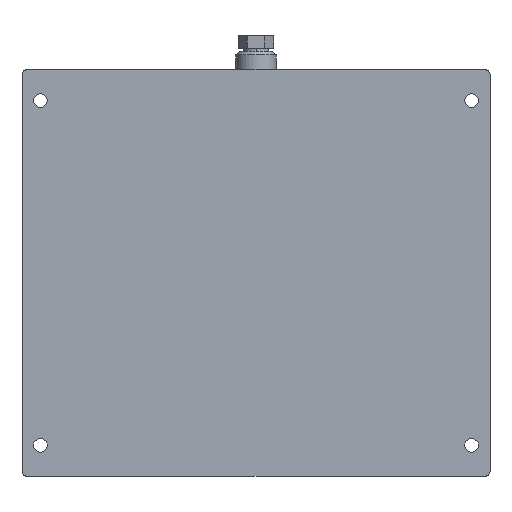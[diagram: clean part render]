
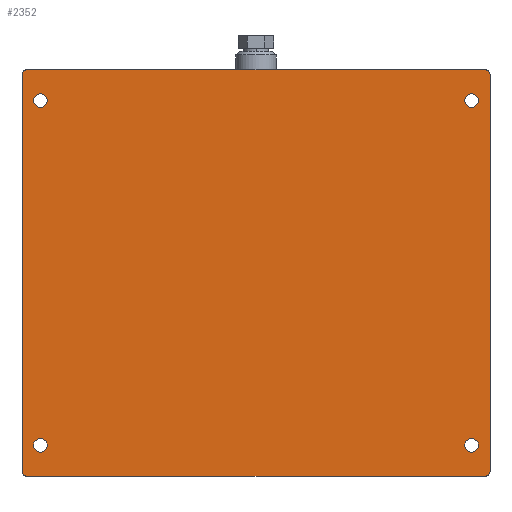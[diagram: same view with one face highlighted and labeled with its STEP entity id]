
A CAD part, front view. The second image highlights one B-rep face of the part: STEP entity #2352.
In plain terms, the highlighted planar face has unit normal (0, -1, 0).
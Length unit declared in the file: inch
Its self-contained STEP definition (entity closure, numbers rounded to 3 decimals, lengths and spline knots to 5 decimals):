
#18 = ORIENTED_EDGE ( 'NONE', *, *, #1941, .T. ) ;
#61 = CIRCLE ( 'NONE', #2978, 0.28125 ) ;
#80 = DIRECTION ( 'NONE',  ( 0., 1., 0. ) ) ;
#84 = DIRECTION ( 'NONE',  ( 0., 1., 0. ) ) ;
#87 = FACE_BOUND ( 'NONE', #379, .T. ) ;
#148 = DIRECTION ( 'NONE',  ( 0., 1., 0. ) ) ;
#213 = DIRECTION ( 'NONE',  ( 0., 0., 1. ) ) ;
#239 = ORIENTED_EDGE ( 'NONE', *, *, #2556, .F. ) ;
#241 = EDGE_CURVE ( 'NONE', #853, #1714, #1551, .T. ) ;
#271 = EDGE_CURVE ( 'NONE', #2634, #2176, #286, .T. ) ;
#286 = CIRCLE ( 'NONE', #1497, 0.28125 ) ;
#356 = DIRECTION ( 'NONE',  ( 0., 1., 0. ) ) ;
#357 = CIRCLE ( 'NONE', #1370, 0.28125 ) ;
#379 = EDGE_LOOP ( 'NONE', ( #1055, #1553 ) ) ;
#382 = VECTOR ( 'NONE', #1365, 39.37008 ) ;
#391 = EDGE_LOOP ( 'NONE', ( #2938, #2139 ) ) ;
#397 = CARTESIAN_POINT ( 'NONE',  ( -9.3125, -0.1875, -8.25 ) ) ;
#427 = EDGE_CURVE ( 'NONE', #2176, #2634, #892, .T. ) ;
#498 = CIRCLE ( 'NONE', #2849, 0.28125 ) ;
#528 = CARTESIAN_POINT ( 'NONE',  ( -8.75, -0.1875, -6.71875 ) ) ;
#530 = DIRECTION ( 'NONE',  ( 0., 1., 0. ) ) ;
#539 = CIRCLE ( 'NONE', #2172, 0.1875 ) ;
#556 = CARTESIAN_POINT ( 'NONE',  ( 9.5, -0.1875, 8.0625 ) ) ;
#563 = DIRECTION ( 'NONE',  ( 0., 0., 1. ) ) ;
#584 = DIRECTION ( 'NONE',  ( 0., 1., 0. ) ) ;
#595 = AXIS2_PLACEMENT_3D ( 'NONE', #1506, #84, #1747 ) ;
#604 = DIRECTION ( 'NONE',  ( 0., 0., 1. ) ) ;
#645 = VERTEX_POINT ( 'NONE', #775 ) ;
#656 = CIRCLE ( 'NONE', #1429, 0.1875 ) ;
#677 = VERTEX_POINT ( 'NONE', #1031 ) ;
#678 = EDGE_CURVE ( 'NONE', #1714, #1587, #2459, .T. ) ;
#680 = VERTEX_POINT ( 'NONE', #1744 ) ;
#712 = CARTESIAN_POINT ( 'NONE',  ( 9.5, -0.1875, 8.0625 ) ) ;
#719 = AXIS2_PLACEMENT_3D ( 'NONE', #2298, #863, #2542 ) ;
#724 = CARTESIAN_POINT ( 'NONE',  ( 8.75, -0.1875, -7.28125 ) ) ;
#726 = DIRECTION ( 'NONE',  ( 0., 1., 0. ) ) ;
#729 = FACE_BOUND ( 'NONE', #2059, .T. ) ;
#730 = CIRCLE ( 'NONE', #1466, 0.1875 ) ;
#763 = DIRECTION ( 'NONE',  ( 0., 1., 0. ) ) ;
#775 = CARTESIAN_POINT ( 'NONE',  ( 8.75, -0.1875, -6.71875 ) ) ;
#809 = LINE ( 'NONE', #1103, #1999 ) ;
#853 = VERTEX_POINT ( 'NONE', #2932 ) ;
#863 = DIRECTION ( 'NONE',  ( 0., 1., 0. ) ) ;
#892 = CIRCLE ( 'NONE', #966, 0.28125 ) ;
#899 = VERTEX_POINT ( 'NONE', #724 ) ;
#930 = EDGE_CURVE ( 'NONE', #1250, #1654, #357, .T. ) ;
#933 = DIRECTION ( 'NONE',  ( 0., 1., 0. ) ) ;
#955 = CIRCLE ( 'NONE', #719, 0.28125 ) ;
#960 = EDGE_CURVE ( 'NONE', #899, #645, #61, .T. ) ;
#966 = AXIS2_PLACEMENT_3D ( 'NONE', #2973, #584, #2259 ) ;
#1031 = CARTESIAN_POINT ( 'NONE',  ( -8.75, -0.1875, 6.71875 ) ) ;
#1037 = CARTESIAN_POINT ( 'NONE',  ( 8.75, -0.1875, -7. ) ) ;
#1055 = ORIENTED_EDGE ( 'NONE', *, *, #1449, .T. ) ;
#1103 = CARTESIAN_POINT ( 'NONE',  ( -9.3125, -0.1875, -8.25 ) ) ;
#1115 = ORIENTED_EDGE ( 'NONE', *, *, #241, .F. ) ;
#1139 = CARTESIAN_POINT ( 'NONE',  ( 9.5, -0.1875, -8.0625 ) ) ;
#1164 = EDGE_CURVE ( 'NONE', #3011, #2200, #809, .T. ) ;
#1168 = CARTESIAN_POINT ( 'NONE',  ( 9.3125, -0.1875, 8.0625 ) ) ;
#1201 = ORIENTED_EDGE ( 'NONE', *, *, #2844, .F. ) ;
#1225 = DIRECTION ( 'NONE',  ( 0., 1., 0. ) ) ;
#1250 = VERTEX_POINT ( 'NONE', #528 ) ;
#1266 = CARTESIAN_POINT ( 'NONE',  ( -9.5, -0.1875, -8.0625 ) ) ;
#1278 = CIRCLE ( 'NONE', #595, 0.28125 ) ;
#1309 = DIRECTION ( 'NONE',  ( 0., 0., 1. ) ) ;
#1310 = ORIENTED_EDGE ( 'NONE', *, *, #1406, .F. ) ;
#1340 = AXIS2_PLACEMENT_3D ( 'NONE', #1550, #2994, #1309 ) ;
#1351 = FACE_BOUND ( 'NONE', #391, .T. ) ;
#1365 = DIRECTION ( 'NONE',  ( 0., 0., 1. ) ) ;
#1370 = AXIS2_PLACEMENT_3D ( 'NONE', #1955, #530, #2201 ) ;
#1406 = EDGE_CURVE ( 'NONE', #1858, #853, #1502, .T. ) ;
#1429 = AXIS2_PLACEMENT_3D ( 'NONE', #2191, #763, #2437 ) ;
#1449 = EDGE_CURVE ( 'NONE', #645, #899, #955, .T. ) ;
#1466 = AXIS2_PLACEMENT_3D ( 'NONE', #2669, #1225, #2903 ) ;
#1490 = CARTESIAN_POINT ( 'NONE',  ( 8.75, -0.1875, 7.28125 ) ) ;
#1497 = AXIS2_PLACEMENT_3D ( 'NONE', #2022, #356, #604 ) ;
#1502 = LINE ( 'NONE', #2762, #2792 ) ;
#1506 = CARTESIAN_POINT ( 'NONE',  ( -8.75, -0.1875, 7. ) ) ;
#1550 = CARTESIAN_POINT ( 'NONE',  ( 9.3125, -0.1875, 8.0625 ) ) ;
#1551 = CIRCLE ( 'NONE', #1340, 0.1875 ) ;
#1553 = ORIENTED_EDGE ( 'NONE', *, *, #960, .T. ) ;
#1587 = VERTEX_POINT ( 'NONE', #1139 ) ;
#1601 = CARTESIAN_POINT ( 'NONE',  ( -9.5, -0.1875, 8.0625 ) ) ;
#1654 = VERTEX_POINT ( 'NONE', #2127 ) ;
#1710 = CARTESIAN_POINT ( 'NONE',  ( -9.3125, -0.1875, 8.25 ) ) ;
#1714 = VERTEX_POINT ( 'NONE', #712 ) ;
#1718 = CIRCLE ( 'NONE', #2662, 0.28125 ) ;
#1744 = CARTESIAN_POINT ( 'NONE',  ( -9.5, -0.1875, 8.0625 ) ) ;
#1747 = DIRECTION ( 'NONE',  ( 0., 0., -1. ) ) ;
#1800 = ORIENTED_EDGE ( 'NONE', *, *, #271, .T. ) ;
#1809 = CARTESIAN_POINT ( 'NONE',  ( -8.75, -0.1875, -7. ) ) ;
#1812 = VECTOR ( 'NONE', #1980, 39.37008 ) ;
#1858 = VERTEX_POINT ( 'NONE', #1710 ) ;
#1911 = FACE_OUTER_BOUND ( 'NONE', #2036, .T. ) ;
#1941 = EDGE_CURVE ( 'NONE', #677, #2735, #1278, .T. ) ;
#1955 = CARTESIAN_POINT ( 'NONE',  ( -8.75, -0.1875, -7. ) ) ;
#1980 = DIRECTION ( 'NONE',  ( 0., 0., -1. ) ) ;
#1986 = DIRECTION ( 'NONE',  ( 0., 1., 0. ) ) ;
#1999 = VECTOR ( 'NONE', #2306, 39.37008 ) ;
#2022 = CARTESIAN_POINT ( 'NONE',  ( 8.75, -0.1875, 7. ) ) ;
#2036 = EDGE_LOOP ( 'NONE', ( #1115, #1310, #1201, #2511, #2344, #2242, #239, #3099 ) ) ;
#2051 = DIRECTION ( 'NONE',  ( 0., 0., -1. ) ) ;
#2059 = EDGE_LOOP ( 'NONE', ( #2198, #18 ) ) ;
#2114 = CARTESIAN_POINT ( 'NONE',  ( -8.75, -0.1875, 7.28125 ) ) ;
#2127 = CARTESIAN_POINT ( 'NONE',  ( -8.75, -0.1875, -7.28125 ) ) ;
#2139 = ORIENTED_EDGE ( 'NONE', *, *, #2894, .T. ) ;
#2150 = CARTESIAN_POINT ( 'NONE',  ( -8.75, -0.1875, 7. ) ) ;
#2158 = CARTESIAN_POINT ( 'NONE',  ( 9.3125, -0.1875, -8.25 ) ) ;
#2172 = AXIS2_PLACEMENT_3D ( 'NONE', #3022, #80, #2700 ) ;
#2176 = VERTEX_POINT ( 'NONE', #2784 ) ;
#2191 = CARTESIAN_POINT ( 'NONE',  ( 9.3125, -0.1875, -8.0625 ) ) ;
#2198 = ORIENTED_EDGE ( 'NONE', *, *, #2434, .T. ) ;
#2200 = VERTEX_POINT ( 'NONE', #397 ) ;
#2201 = DIRECTION ( 'NONE',  ( 0., 0., -1. ) ) ;
#2242 = ORIENTED_EDGE ( 'NONE', *, *, #1164, .F. ) ;
#2249 = EDGE_CURVE ( 'NONE', #2655, #680, #2925, .T. ) ;
#2259 = DIRECTION ( 'NONE',  ( 0., 0., 1. ) ) ;
#2298 = CARTESIAN_POINT ( 'NONE',  ( 8.75, -0.1875, -7. ) ) ;
#2306 = DIRECTION ( 'NONE',  ( -1., 0., 0. ) ) ;
#2344 = ORIENTED_EDGE ( 'NONE', *, *, #3051, .F. ) ;
#2352 = ADVANCED_FACE ( 'NONE', ( #729, #1351, #87, #2635, #1911 ), #3091, .F. ) ;
#2395 = DIRECTION ( 'NONE',  ( 0., 0., -1. ) ) ;
#2434 = EDGE_CURVE ( 'NONE', #2735, #677, #498, .T. ) ;
#2437 = DIRECTION ( 'NONE',  ( 0., 0., -1. ) ) ;
#2459 = LINE ( 'NONE', #556, #1812 ) ;
#2487 = EDGE_LOOP ( 'NONE', ( #1800, #3021 ) ) ;
#2511 = ORIENTED_EDGE ( 'NONE', *, *, #2249, .F. ) ;
#2542 = DIRECTION ( 'NONE',  ( 0., 0., 1. ) ) ;
#2556 = EDGE_CURVE ( 'NONE', #1587, #3011, #656, .T. ) ;
#2634 = VERTEX_POINT ( 'NONE', #1490 ) ;
#2635 = FACE_BOUND ( 'NONE', #2487, .T. ) ;
#2655 = VERTEX_POINT ( 'NONE', #1266 ) ;
#2662 = AXIS2_PLACEMENT_3D ( 'NONE', #1809, #148, #2051 ) ;
#2669 = CARTESIAN_POINT ( 'NONE',  ( -9.3125, -0.1875, -8.0625 ) ) ;
#2700 = DIRECTION ( 'NONE',  ( 0., 0., -1. ) ) ;
#2735 = VERTEX_POINT ( 'NONE', #2114 ) ;
#2762 = CARTESIAN_POINT ( 'NONE',  ( -9.3125, -0.1875, 8.25 ) ) ;
#2781 = AXIS2_PLACEMENT_3D ( 'NONE', #1168, #933, #213 ) ;
#2784 = CARTESIAN_POINT ( 'NONE',  ( 8.75, -0.1875, 6.71875 ) ) ;
#2792 = VECTOR ( 'NONE', #2984, 39.37008 ) ;
#2844 = EDGE_CURVE ( 'NONE', #680, #1858, #539, .T. ) ;
#2849 = AXIS2_PLACEMENT_3D ( 'NONE', #2150, #726, #2395 ) ;
#2894 = EDGE_CURVE ( 'NONE', #1654, #1250, #1718, .T. ) ;
#2903 = DIRECTION ( 'NONE',  ( 0., 0., -1. ) ) ;
#2925 = LINE ( 'NONE', #1601, #382 ) ;
#2932 = CARTESIAN_POINT ( 'NONE',  ( 9.3125, -0.1875, 8.25 ) ) ;
#2938 = ORIENTED_EDGE ( 'NONE', *, *, #930, .T. ) ;
#2973 = CARTESIAN_POINT ( 'NONE',  ( 8.75, -0.1875, 7. ) ) ;
#2978 = AXIS2_PLACEMENT_3D ( 'NONE', #1037, #1986, #563 ) ;
#2984 = DIRECTION ( 'NONE',  ( 1., 0., 0. ) ) ;
#2994 = DIRECTION ( 'NONE',  ( 0., 1., 0. ) ) ;
#3011 = VERTEX_POINT ( 'NONE', #2158 ) ;
#3021 = ORIENTED_EDGE ( 'NONE', *, *, #427, .T. ) ;
#3022 = CARTESIAN_POINT ( 'NONE',  ( -9.3125, -0.1875, 8.0625 ) ) ;
#3051 = EDGE_CURVE ( 'NONE', #2200, #2655, #730, .T. ) ;
#3091 = PLANE ( 'NONE',  #2781 ) ;
#3099 = ORIENTED_EDGE ( 'NONE', *, *, #678, .F. ) ;
